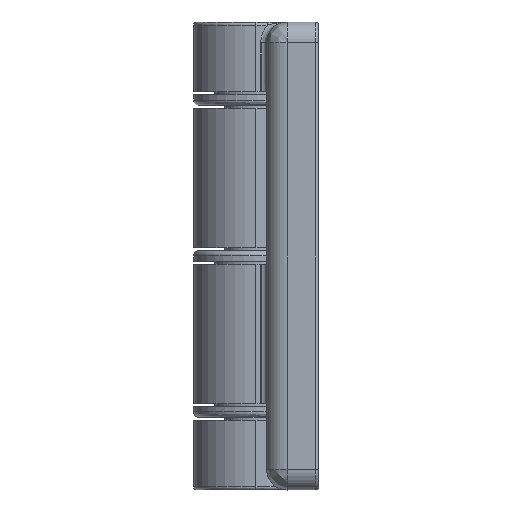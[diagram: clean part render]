
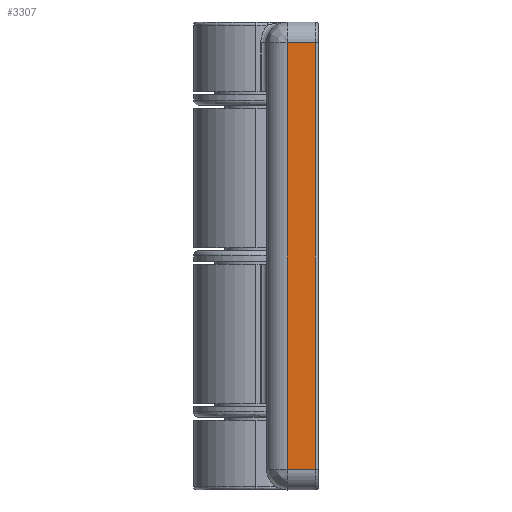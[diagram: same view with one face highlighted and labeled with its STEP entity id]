
A CAD part, left-side view. The second image highlights one B-rep face of the part: STEP entity #3307.
In plain terms, the highlighted planar face has unit normal (-1, 0, 0) as drawn and (1, 0, 0) by its records, which use the part's own axes.
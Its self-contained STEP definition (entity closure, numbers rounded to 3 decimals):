
#265 = DIRECTION ( 'NONE',  ( 0., 1., 0. ) ) ;
#267 = CARTESIAN_POINT ( 'NONE',  ( 40., -6., 20.5 ) ) ;
#528 = FACE_OUTER_BOUND ( 'NONE', #3652, .T. ) ;
#753 = LINE ( 'NONE', #2151, #873 ) ;
#773 = LINE ( 'NONE', #7304, #888 ) ;
#873 = VECTOR ( 'NONE', #2169, 1000. ) ;
#888 = VECTOR ( 'NONE', #7256, 1000. ) ;
#1560 = CARTESIAN_POINT ( 'NONE',  ( 40., -5.7, -20.5 ) ) ;
#1562 = CARTESIAN_POINT ( 'NONE',  ( 40., -5.7, 20.5 ) ) ;
#1583 = CARTESIAN_POINT ( 'NONE',  ( 40., -3., 20.5 ) ) ;
#1622 = CARTESIAN_POINT ( 'NONE',  ( 40., -3., -20.5 ) ) ;
#1987 = VERTEX_POINT ( 'NONE', #1622 ) ;
#2026 = VERTEX_POINT ( 'NONE', #1583 ) ;
#2047 = VERTEX_POINT ( 'NONE', #1562 ) ;
#2049 = VERTEX_POINT ( 'NONE', #1560 ) ;
#2151 = CARTESIAN_POINT ( 'NONE',  ( 40., -5.7, 22.5 ) ) ;
#2169 = DIRECTION ( 'NONE',  ( 0., 0., 1. ) ) ;
#2216 = CARTESIAN_POINT ( 'NONE',  ( 40., -6., -20.5 ) ) ;
#2237 = DIRECTION ( 'NONE',  ( 0., -1., 0. ) ) ;
#3307 = ADVANCED_FACE ( 'NONE', ( #528 ), #6008, .F. ) ;
#3652 = EDGE_LOOP ( 'NONE', ( #3814, #4371, #3887, #4343 ) ) ;
#3814 = ORIENTED_EDGE ( 'NONE', *, *, #5460, .F. ) ;
#3887 = ORIENTED_EDGE ( 'NONE', *, *, #5555, .F. ) ;
#4343 = ORIENTED_EDGE ( 'NONE', *, *, #5134, .F. ) ;
#4371 = ORIENTED_EDGE ( 'NONE', *, *, #5293, .F. ) ;
#4517 = LINE ( 'NONE', #267, #4635 ) ;
#4635 = VECTOR ( 'NONE', #265, 1000. ) ;
#5134 = EDGE_CURVE ( 'NONE', #2047, #2026, #4517, .T. ) ;
#5293 = EDGE_CURVE ( 'NONE', #1987, #2049, #6492, .T. ) ;
#5435 = AXIS2_PLACEMENT_3D ( 'NONE', #6037, #6301, #6292 ) ;
#5460 = EDGE_CURVE ( 'NONE', #2049, #2047, #753, .T. ) ;
#5555 = EDGE_CURVE ( 'NONE', #2026, #1987, #773, .T. ) ;
#6008 = PLANE ( 'NONE',  #5435 ) ;
#6037 = CARTESIAN_POINT ( 'NONE',  ( 40., -6., 22.5 ) ) ;
#6292 = DIRECTION ( 'NONE',  ( 0., 0., 1. ) ) ;
#6301 = DIRECTION ( 'NONE',  ( -1., 0., 0. ) ) ;
#6492 = LINE ( 'NONE', #2216, #6511 ) ;
#6511 = VECTOR ( 'NONE', #2237, 1000. ) ;
#7256 = DIRECTION ( 'NONE',  ( 0., 0., -1. ) ) ;
#7304 = CARTESIAN_POINT ( 'NONE',  ( 40., -3., 22.5 ) ) ;
